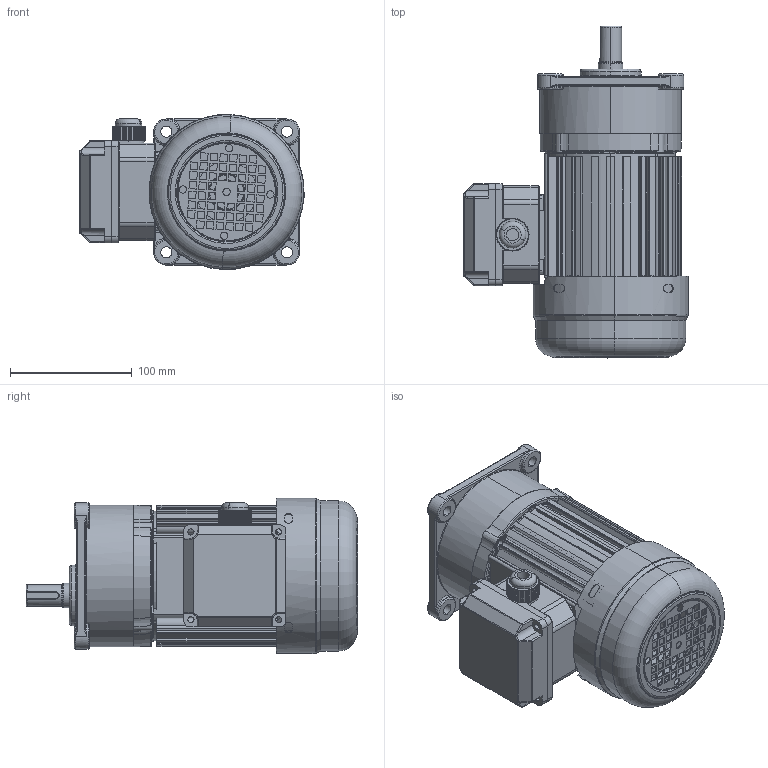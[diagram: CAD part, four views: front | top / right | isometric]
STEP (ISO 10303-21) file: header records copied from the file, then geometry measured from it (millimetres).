
FILE_DESCRIPTION (( 'STEP AP203' ), '1' );
FILE_NAME ('100W饜1#湍价陬蕾宒.STEP', '2020-04-17T01:55:11', ( '' ), ( '' ), 'SwSTEP 2.0', 'SolidWorks 2019', '' );
FILE_SCHEMA (( 'CONFIG_CONTROL_DESIGN' ));
Length unit declared in the file: millimetre
Products named in the file (7): 100W饜1#蕾宒; 100W棠憤迖殤; 100W价陬瑞欶; 湍价陬諉盄碟裔; 諉芛; 蜊輛綴諉盄碟釱3; 100W饜1#湍价陬蕾宒
Assembly tree (6 placements, depth 2):
  100W饜1#湍价陬蕾宒
    100W饜1#蕾宒
    100W棠憤迖殤
    100W价陬瑞欶
    蜊輛綴諉盄碟釱3
    諉芛
    湍价陬諉盄碟裔
Bounding box: 184.15 x 272.5 x 127.3 mm (x, y, z)
Volume: 1112529.8 mm3; surface area: 393976.3 mm2
Topology: 8 solids, 8 shells, 2313 faces, 5951 edges, 3628 vertices
Faces by surface type: cylinder 752, plane 728, bspline 335, torus 232, sphere 139, cone 127
Entity records: 90832 total; most frequent: CARTESIAN_POINT 36720, ORIENTED_EDGE 11638, DIRECTION 10703, EDGE_CURVE 5819, AXIS2_PLACEMENT_3D 4147, VERTEX_POINT 3613, EDGE_LOOP 2568, LINE 2409
